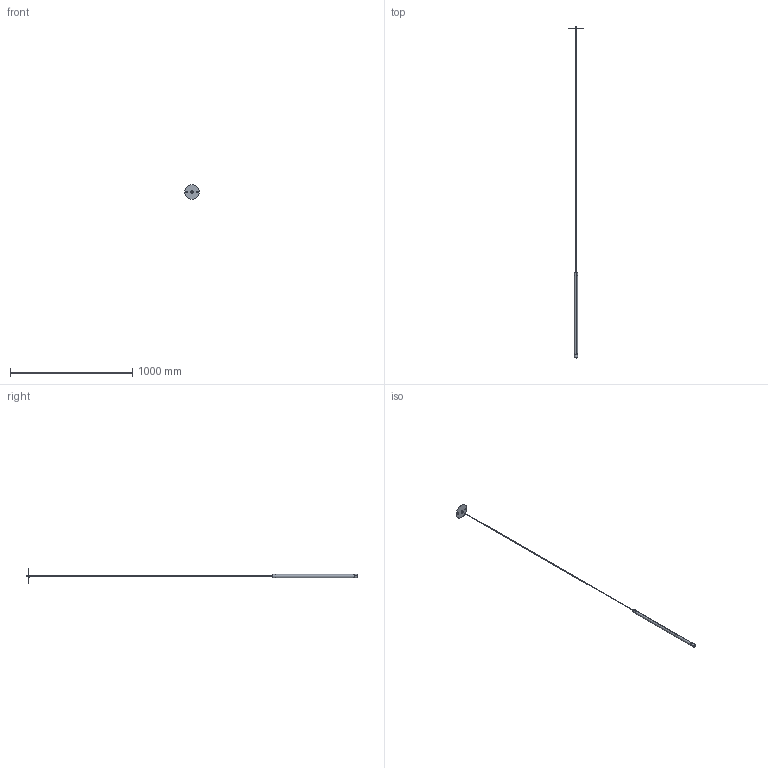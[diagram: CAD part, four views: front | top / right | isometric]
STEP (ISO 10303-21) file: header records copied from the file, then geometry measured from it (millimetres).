
FILE_DESCRIPTION (( 'STEP AP203' ), '1' );
FILE_NAME ('U21010XXXX-PER 3D.STEP', '2026-07-07T16:44:41', ( '' ), ( '' ), 'SwSTEP 2.0', 'SolidWorks 2026', '' );
FILE_SCHEMA (( 'CONFIG_CONTROL_DESIGN' ));
Length unit declared in the file: millimetre
Products named in the file (10): WSA5408-4-10-1-6--; UL 20242-P222; WST1IBIANCO-------; WSA5100-7-08-1-6--; WSCP2F0010-0405-00; WSCM2A0045-0700-00; WSCM2A0050-0700-00_默认; WSCM2C0051-0100-01_WSCM2C0051-0128-01; U21010XXXX-PER 3D; WSASS-000000028-28
Assembly tree (10 placements, depth 3):
  U21010XXXX-PER 3D
    WSCM2A0045-0700-00
    WSCM2A0050-0700-00_默认
    UL 20242-P222
    WSCP2F0010-0405-00
    WSASS-000000028-28
      WSCM2C0051-0100-01_WSCM2C0051-0128-01
      WSA5100-7-08-1-6--
      WST1IBIANCO-------  x2
      WSA5408-4-10-1-6--
Bounding box: 120 x 2710.5 x 120 mm (x, y, z)
Volume: 238404 mm3; surface area: 154908.7 mm2
Topology: 9 solids, 9 shells, 147 faces, 305 edges, 184 vertices
Faces by surface type: plane 57, cylinder 54, cone 30, torus 6
Entity records: 4928 total; most frequent: DIRECTION 748, CARTESIAN_POINT 670, ORIENTED_EDGE 590, AXIS2_PLACEMENT_3D 306, EDGE_CURVE 295, VERTEX_POINT 180, EDGE_LOOP 169, CIRCLE 149
